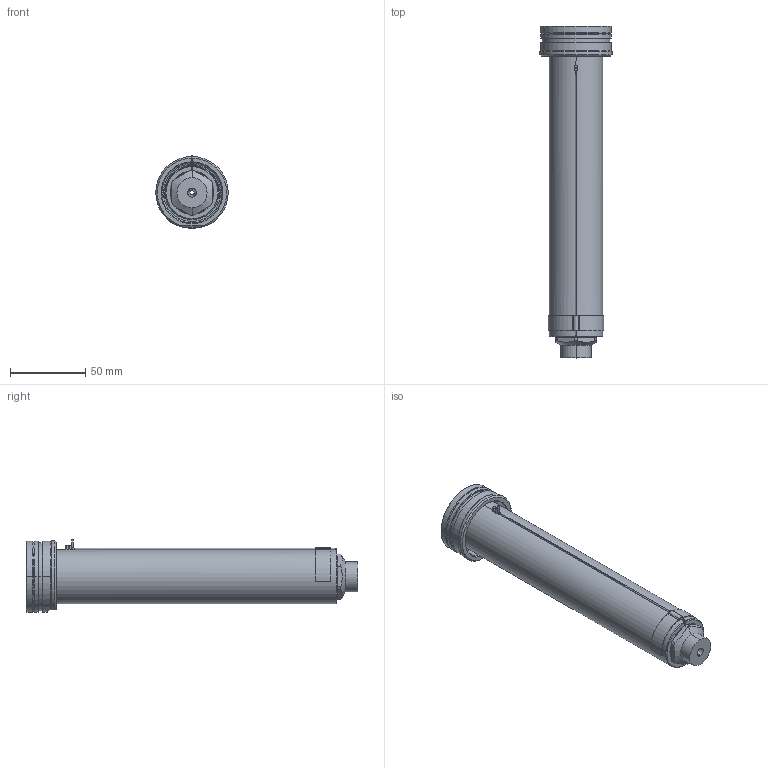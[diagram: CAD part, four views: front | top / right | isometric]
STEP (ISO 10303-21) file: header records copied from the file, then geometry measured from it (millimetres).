
FILE_DESCRIPTION((''),'2;1');
FILE_NAME('EO16_SG_SG_200_SW','2024-02-19T12:33:33',('sundharh'),(''),'CREO PARAMETRIC BY PTC INC, 2023154','CREO PARAMETRIC BY PTC INC, 2023154','');
FILE_SCHEMA(('CONFIG_CONTROL_DESIGN'));
Length unit declared in the file: millimetre
Products named in the file (1): EO16_SG_SG_200_SW
Bounding box: 47.97 x 220 x 48 mm (x, y, z)
Volume: 180156.3 mm3; surface area: 43121.5 mm2
Topology: 1 solids, 1 shells, 163 faces, 410 edges, 251 vertices
Faces by surface type: cylinder 64, plane 44, cone 31, torus 14, bspline 7, sphere 3
Entity records: 5655 total; most frequent: CARTESIAN_POINT 1686, DIRECTION 878, ORIENTED_EDGE 800, EDGE_CURVE 400, AXIS2_PLACEMENT_3D 362, VERTEX_POINT 251, CIRCLE 206, EDGE_LOOP 179
